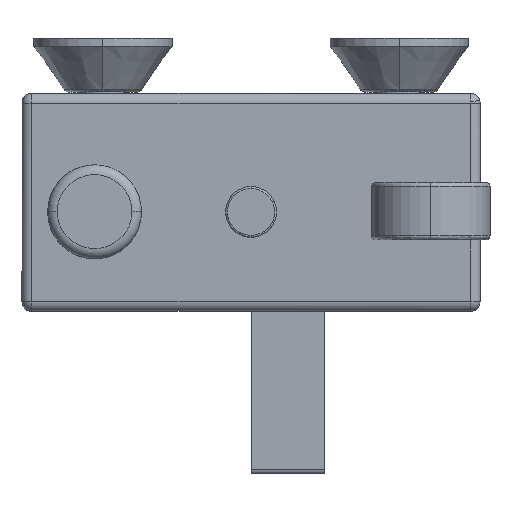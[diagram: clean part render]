
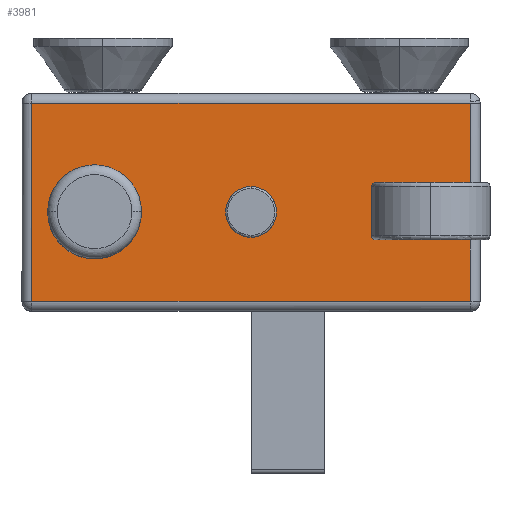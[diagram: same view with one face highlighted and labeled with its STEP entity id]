
A CAD part, top view. The second image highlights one B-rep face of the part: STEP entity #3981.
In plain terms, the highlighted planar face has unit normal (0, 0, 1).
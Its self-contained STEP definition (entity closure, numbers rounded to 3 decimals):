
#289 = FACE_BOUND ( 'NONE', #3749, .T. ) ;
#382 = LINE ( 'NONE', #1139, #4950 ) ;
#388 = EDGE_CURVE ( 'NONE', #506, #3168, #5475, .T. ) ;
#398 = VERTEX_POINT ( 'NONE', #3801 ) ;
#484 = CARTESIAN_POINT ( 'NONE',  ( 111., -138.261, 921.143 ) ) ;
#500 = EDGE_CURVE ( 'NONE', #5507, #5347, #3602, .T. ) ;
#506 = VERTEX_POINT ( 'NONE', #6335 ) ;
#549 = VECTOR ( 'NONE', #1024, 1000. ) ;
#564 = EDGE_CURVE ( 'NONE', #398, #5507, #382, .T. ) ;
#601 = CARTESIAN_POINT ( 'NONE',  ( -55.487, -88., 921.143 ) ) ;
#768 = CARTESIAN_POINT ( 'NONE',  ( 111., -97.027, 921.143 ) ) ;
#815 = VECTOR ( 'NONE', #4404, 1000. ) ;
#961 = EDGE_CURVE ( 'NONE', #3462, #6293, #4048, .T. ) ;
#966 = VECTOR ( 'NONE', #1342, 1000. ) ;
#1024 = DIRECTION ( 'NONE',  ( 1., 0., 0. ) ) ;
#1120 = ORIENTED_EDGE ( 'NONE', *, *, #1317, .F. ) ;
#1139 = CARTESIAN_POINT ( 'NONE',  ( -111., -138.261, 921.143 ) ) ;
#1160 = LINE ( 'NONE', #4834, #7069 ) ;
#1189 = EDGE_CURVE ( 'NONE', #6293, #3462, #6355, .T. ) ;
#1317 = EDGE_CURVE ( 'NONE', #4182, #4004, #2969, .T. ) ;
#1342 = DIRECTION ( 'NONE',  ( 0., 1., 0. ) ) ;
#1442 = VECTOR ( 'NONE', #6109, 1000. ) ;
#1466 = ORIENTED_EDGE ( 'NONE', *, *, #564, .T. ) ;
#1510 = DIRECTION ( 'NONE',  ( 1., 0., 0. ) ) ;
#1571 = ORIENTED_EDGE ( 'NONE', *, *, #2069, .F. ) ;
#1738 = DIRECTION ( 'NONE',  ( 1., 0., 0. ) ) ;
#1784 = VECTOR ( 'NONE', #1738, 1000. ) ;
#1880 = CARTESIAN_POINT ( 'NONE',  ( 111., -133.261, 921.143 ) ) ;
#1982 = LINE ( 'NONE', #6331, #1784 ) ;
#2006 = ORIENTED_EDGE ( 'NONE', *, *, #4984, .F. ) ;
#2069 = EDGE_CURVE ( 'NONE', #5788, #4182, #1160, .T. ) ;
#2110 = DIRECTION ( 'NONE',  ( 0., 0., -1. ) ) ;
#2389 = DIRECTION ( 'NONE',  ( 0., 0., -1. ) ) ;
#2570 = AXIS2_PLACEMENT_3D ( 'NONE', #484, #7363, #3936 ) ;
#2657 = AXIS2_PLACEMENT_3D ( 'NONE', #4801, #2389, #6946 ) ;
#2696 = LINE ( 'NONE', #3372, #815 ) ;
#2780 = VECTOR ( 'NONE', #3412, 1000. ) ;
#2785 = CARTESIAN_POINT ( 'NONE',  ( 84.342, -97.027, 921.143 ) ) ;
#2969 = LINE ( 'NONE', #6830, #1442 ) ;
#3016 = EDGE_LOOP ( 'NONE', ( #1571, #4725, #5484, #1466, #6209, #2006, #6562, #1120 ) ) ;
#3168 = VERTEX_POINT ( 'NONE', #601 ) ;
#3319 = FACE_BOUND ( 'NONE', #3719, .T. ) ;
#3362 = PLANE ( 'NONE',  #2570 ) ;
#3372 = CARTESIAN_POINT ( 'NONE',  ( 111., -27.839, 921.143 ) ) ;
#3390 = CARTESIAN_POINT ( 'NONE',  ( -79.246, -88., 921.143 ) ) ;
#3412 = DIRECTION ( 'NONE',  ( -1., 0., 0. ) ) ;
#3462 = VERTEX_POINT ( 'NONE', #5145 ) ;
#3520 = VERTEX_POINT ( 'NONE', #6381 ) ;
#3566 = CARTESIAN_POINT ( 'NONE',  ( -111., -133.261, 921.143 ) ) ;
#3602 = LINE ( 'NONE', #1880, #549 ) ;
#3719 = EDGE_LOOP ( 'NONE', ( #3916, #4682 ) ) ;
#3749 = EDGE_LOOP ( 'NONE', ( #4099, #4675 ) ) ;
#3801 = CARTESIAN_POINT ( 'NONE',  ( -111., -32.839, 921.143 ) ) ;
#3916 = ORIENTED_EDGE ( 'NONE', *, *, #1189, .T. ) ;
#3936 = DIRECTION ( 'NONE',  ( 1., 0., 0. ) ) ;
#3981 = ADVANCED_FACE ( 'NONE', ( #6348, #289, #3319 ), #3362, .T. ) ;
#4004 = VERTEX_POINT ( 'NONE', #2785 ) ;
#4046 = CIRCLE ( 'NONE', #5926, 23.759 ) ;
#4048 = CIRCLE ( 'NONE', #2657, 11.613 ) ;
#4099 = ORIENTED_EDGE ( 'NONE', *, *, #4896, .T. ) ;
#4182 = VERTEX_POINT ( 'NONE', #5959 ) ;
#4187 = CARTESIAN_POINT ( 'NONE',  ( -11.613, -88., 921.143 ) ) ;
#4404 = DIRECTION ( 'NONE',  ( 0., -1., 0. ) ) ;
#4675 = ORIENTED_EDGE ( 'NONE', *, *, #388, .T. ) ;
#4682 = ORIENTED_EDGE ( 'NONE', *, *, #961, .T. ) ;
#4725 = ORIENTED_EDGE ( 'NONE', *, *, #7114, .T. ) ;
#4740 = DIRECTION ( 'NONE',  ( -1., 0., 0. ) ) ;
#4801 = CARTESIAN_POINT ( 'NONE',  ( 0., -88., 921.143 ) ) ;
#4834 = CARTESIAN_POINT ( 'NONE',  ( 250., -78.566, 921.143 ) ) ;
#4896 = EDGE_CURVE ( 'NONE', #3168, #506, #4046, .T. ) ;
#4950 = VECTOR ( 'NONE', #5148, 1000. ) ;
#4984 = EDGE_CURVE ( 'NONE', #6360, #5347, #2696, .T. ) ;
#5145 = CARTESIAN_POINT ( 'NONE',  ( 11.613, -88., 921.143 ) ) ;
#5148 = DIRECTION ( 'NONE',  ( 0., -1., 0. ) ) ;
#5347 = VERTEX_POINT ( 'NONE', #6772 ) ;
#5407 = DIRECTION ( 'NONE',  ( -1., 0., 0. ) ) ;
#5416 = EDGE_CURVE ( 'NONE', #3520, #398, #6000, .T. ) ;
#5475 = CIRCLE ( 'NONE', #5624, 23.759 ) ;
#5484 = ORIENTED_EDGE ( 'NONE', *, *, #5416, .T. ) ;
#5507 = VERTEX_POINT ( 'NONE', #3566 ) ;
#5516 = CARTESIAN_POINT ( 'NONE',  ( -79.246, -88., 921.143 ) ) ;
#5624 = AXIS2_PLACEMENT_3D ( 'NONE', #3390, #7387, #1510 ) ;
#5788 = VERTEX_POINT ( 'NONE', #6652 ) ;
#5799 = DIRECTION ( 'NONE',  ( 0., 0., -1. ) ) ;
#5926 = AXIS2_PLACEMENT_3D ( 'NONE', #5516, #2110, #6089 ) ;
#5959 = CARTESIAN_POINT ( 'NONE',  ( 84.342, -78.566, 921.143 ) ) ;
#6000 = LINE ( 'NONE', #6824, #2780 ) ;
#6089 = DIRECTION ( 'NONE',  ( 1., 0., 0. ) ) ;
#6094 = AXIS2_PLACEMENT_3D ( 'NONE', #6651, #5799, #4740 ) ;
#6109 = DIRECTION ( 'NONE',  ( 0., -1., 0. ) ) ;
#6209 = ORIENTED_EDGE ( 'NONE', *, *, #500, .T. ) ;
#6293 = VERTEX_POINT ( 'NONE', #4187 ) ;
#6331 = CARTESIAN_POINT ( 'NONE',  ( 250., -97.027, 921.143 ) ) ;
#6335 = CARTESIAN_POINT ( 'NONE',  ( -103.005, -88., 921.143 ) ) ;
#6348 = FACE_OUTER_BOUND ( 'NONE', #3016, .T. ) ;
#6355 = CIRCLE ( 'NONE', #6094, 11.613 ) ;
#6360 = VERTEX_POINT ( 'NONE', #768 ) ;
#6381 = CARTESIAN_POINT ( 'NONE',  ( 111., -32.839, 921.143 ) ) ;
#6562 = ORIENTED_EDGE ( 'NONE', *, *, #7306, .F. ) ;
#6651 = CARTESIAN_POINT ( 'NONE',  ( 0., -88., 921.143 ) ) ;
#6652 = CARTESIAN_POINT ( 'NONE',  ( 111., -78.566, 921.143 ) ) ;
#6772 = CARTESIAN_POINT ( 'NONE',  ( 111., -133.261, 921.143 ) ) ;
#6824 = CARTESIAN_POINT ( 'NONE',  ( 111., -32.839, 921.143 ) ) ;
#6830 = CARTESIAN_POINT ( 'NONE',  ( 84.342, -97.027, 921.143 ) ) ;
#6874 = LINE ( 'NONE', #7066, #966 ) ;
#6946 = DIRECTION ( 'NONE',  ( -1., 0., 0. ) ) ;
#7066 = CARTESIAN_POINT ( 'NONE',  ( 111., -138.261, 921.143 ) ) ;
#7069 = VECTOR ( 'NONE', #5407, 1000. ) ;
#7114 = EDGE_CURVE ( 'NONE', #5788, #3520, #6874, .T. ) ;
#7306 = EDGE_CURVE ( 'NONE', #4004, #6360, #1982, .T. ) ;
#7363 = DIRECTION ( 'NONE',  ( 0., 0., 1. ) ) ;
#7387 = DIRECTION ( 'NONE',  ( 0., 0., -1. ) ) ;
